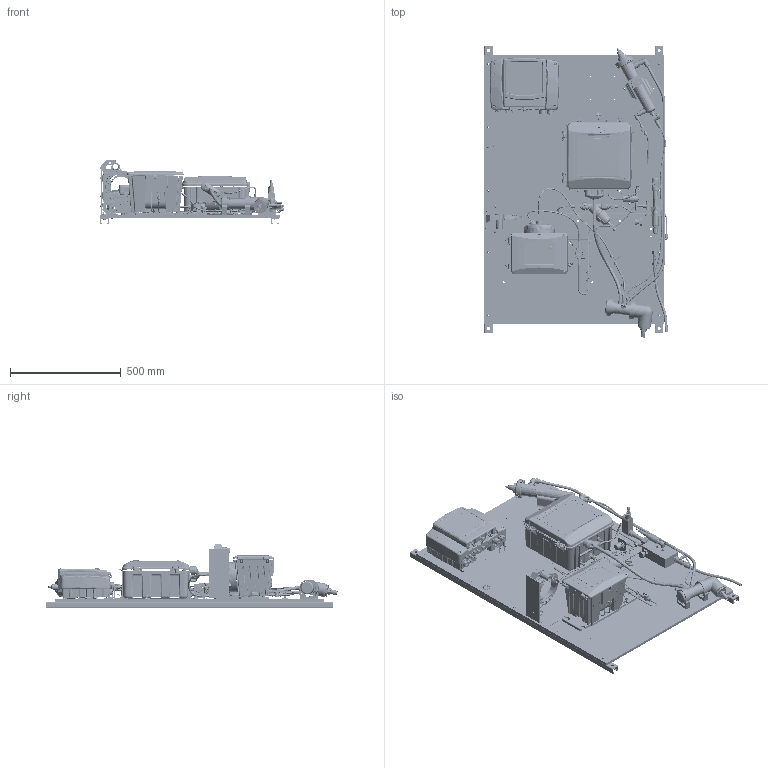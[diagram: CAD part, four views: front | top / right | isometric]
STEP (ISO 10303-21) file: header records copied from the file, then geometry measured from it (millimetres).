
FILE_DESCRIPTION (( 'STEP AP214' ), '1' );
FILE_NAME ('886XXXXCL1787.STEP', '2026-01-09T17:28:57', ( '' ), ( '' ), 'SwSTEP 2.0', 'SolidWorks 2024', '' );
FILE_SCHEMA (( 'AUTOMOTIVE_DESIGN' ));
Products named in the file (1): 886XXXXCL1787
Bounding box: 832.74 x 1317.12 x 291.09 mm (x, y, z)
Surface area: 4395083.7 mm2 (no closed solid volume)
Topology: 0 solids, 1084 shells, 6628 faces, 30444 edges, 24292 vertices
Faces by surface type: plane 2311, cylinder 2031, bspline 1173, cone 657, torus 315, sphere 141
Entity records: 463873 total; most frequent: CARTESIAN_POINT 245135, ORIENTED_EDGE 40161, DIRECTION 39899, EDGE_CURVE 30359, VERTEX_POINT 24290, VECTOR 13535, LINE 13535, AXIS2_PLACEMENT_3D 13182
